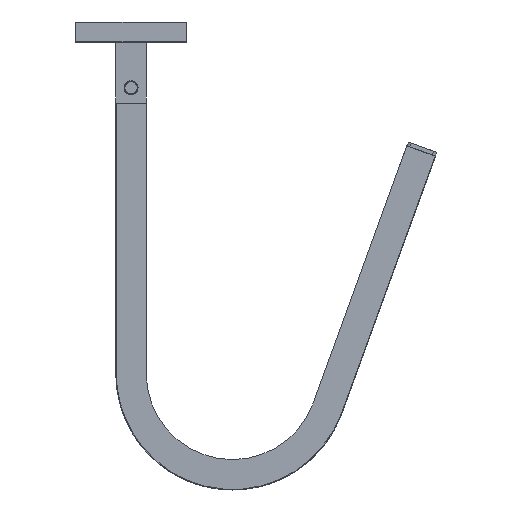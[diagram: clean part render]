
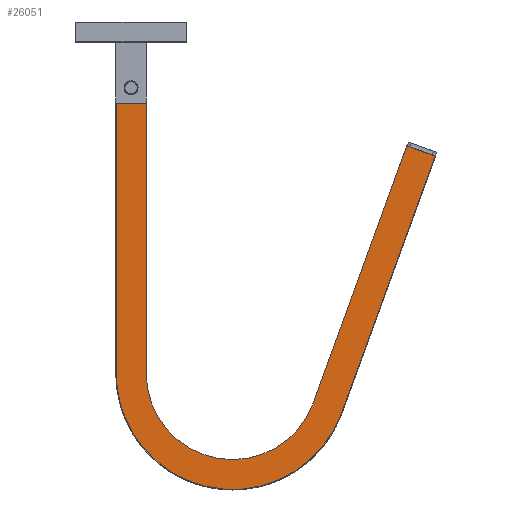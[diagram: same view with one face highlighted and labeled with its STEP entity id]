
A CAD part, left-side view. The second image highlights one B-rep face of the part: STEP entity #26051.
In plain terms, the highlighted planar face has unit normal (-1, 0, 0) as drawn and (0, 0, -1) by its records, which use the part's own axes.
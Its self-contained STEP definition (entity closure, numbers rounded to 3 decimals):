
#10 = CARTESIAN_POINT ( 'NONE',  ( 75.172, 231.627, -20. ) ) ;
#330 = CARTESIAN_POINT ( 'NONE',  ( 103.797, 152.981, -20. ) ) ;
#969 = AXIS2_PLACEMENT_3D ( 'NONE', #46181, #28398, #10346 ) ;
#1271 = VECTOR ( 'NONE', #42407, 1000. ) ;
#1395 = CARTESIAN_POINT ( 'NONE',  ( 103.797, 152.981, -20. ) ) ;
#2313 = CIRCLE ( 'NONE', #969, 42.5 ) ;
#2406 = VECTOR ( 'NONE', #27016, 1000. ) ;
#2613 = DIRECTION ( 'NONE',  ( -1., 0., 0. ) ) ;
#2993 = LINE ( 'NONE', #5829, #1271 ) ;
#3208 = EDGE_CURVE ( 'NONE', #8708, #4790, #2313, .T. ) ;
#3412 = ORIENTED_EDGE ( 'NONE', *, *, #3208, .T. ) ;
#4188 = CARTESIAN_POINT ( 'NONE',  ( -7.25, 133.4, -20. ) ) ;
#4431 = PLANE ( 'NONE',  #10192 ) ;
#4526 = ORIENTED_EDGE ( 'NONE', *, *, #10078, .T. ) ;
#4790 = VERTEX_POINT ( 'NONE', #41579 ) ;
#4927 = FACE_OUTER_BOUND ( 'NONE', #21360, .T. ) ;
#5180 = ORIENTED_EDGE ( 'NONE', *, *, #9491, .T. ) ;
#5329 = CARTESIAN_POINT ( 'NONE',  ( -7.25, 133.793, -20. ) ) ;
#5528 = ORIENTED_EDGE ( 'NONE', *, *, #8901, .T. ) ;
#5829 = CARTESIAN_POINT ( 'NONE',  ( 7.5, 0., -20. ) ) ;
#5951 = DIRECTION ( 'NONE',  ( 0.342, -0.94, 0. ) ) ;
#7281 = CARTESIAN_POINT ( 'NONE',  ( 136.11, 21.077, -20. ) ) ;
#8708 = VERTEX_POINT ( 'NONE', #19776 ) ;
#8901 = EDGE_CURVE ( 'NONE', #4790, #29056, #2993, .T. ) ;
#9119 = CARTESIAN_POINT ( 'NONE',  ( 103.797, 152.981, -20. ) ) ;
#9491 = EDGE_CURVE ( 'NONE', #29056, #39325, #30640, .T. ) ;
#10078 = EDGE_CURVE ( 'NONE', #28659, #46556, #21346, .T. ) ;
#10192 = AXIS2_PLACEMENT_3D ( 'NONE', #30213, #40843, #33209 ) ;
#10346 = DIRECTION ( 'NONE',  ( -1., 0., 0. ) ) ;
#10638 = ORIENTED_EDGE ( 'NONE', *, *, #16293, .T. ) ;
#10777 = CARTESIAN_POINT ( 'NONE',  ( -7.25, 217.094, -20. ) ) ;
#10886 = LINE ( 'NONE', #5329, #2406 ) ;
#12279 = VECTOR ( 'NONE', #29930, 1000. ) ;
#15808 = ORIENTED_EDGE ( 'NONE', *, *, #18015, .T. ) ;
#16293 = EDGE_CURVE ( 'NONE', #46556, #8708, #19089, .T. ) ;
#18015 = EDGE_CURVE ( 'NONE', #35999, #28659, #27409, .T. ) ;
#18804 = CARTESIAN_POINT ( 'NONE',  ( 149.97, 26.122, -20. ) ) ;
#19089 = LINE ( 'NONE', #7281, #12279 ) ;
#19776 = CARTESIAN_POINT ( 'NONE',  ( 89.937, 147.936, -20. ) ) ;
#21346 = LINE ( 'NONE', #39281, #41763 ) ;
#21360 = EDGE_LOOP ( 'NONE', ( #5180, #42620, #37370, #15808, #4526, #10638, #3412, #5528 ) ) ;
#21575 = CARTESIAN_POINT ( 'NONE',  ( -7.25, 133.4, -20. ) ) ;
#26051 = ADVANCED_FACE ( 'NONE', ( #4927 ), #4431, .T. ) ;
#27016 = DIRECTION ( 'NONE',  ( 0., -1., 0. ) ) ;
#27409 = LINE ( 'NONE', #9119, #33605 ) ;
#28398 = DIRECTION ( 'NONE',  ( 0., 0., 1. ) ) ;
#28659 = VERTEX_POINT ( 'NONE', #18804 ) ;
#29056 = VERTEX_POINT ( 'NONE', #29058 ) ;
#29058 = CARTESIAN_POINT ( 'NONE',  ( 7.5, 0., -20. ) ) ;
#29779 = EDGE_CURVE ( 'NONE', #35999, #39512, #30972, .T. ) ;
#29930 = DIRECTION ( 'NONE',  ( -0.342, 0.94, 0. ) ) ;
#30213 = CARTESIAN_POINT ( 'NONE',  ( 7.5, 0., -20. ) ) ;
#30640 = LINE ( 'NONE', #32023, #46015 ) ;
#30972 =( BOUNDED_CURVE ( )  B_SPLINE_CURVE ( 3, ( #330, #10, #10777, #21575 ),
 .UNSPECIFIED., .F., .F. ) 
 B_SPLINE_CURVE_WITH_KNOTS ( ( 4, 4 ),
 ( 0., 1. ),
 .UNSPECIFIED. ) 
 CURVE ( )  GEOMETRIC_REPRESENTATION_ITEM ( )  RATIONAL_B_SPLINE_CURVE ( ( 1., 0.449, 0.449, 1. ) ) 
 REPRESENTATION_ITEM ( '' )  );
#32023 = CARTESIAN_POINT ( 'NONE',  ( 0., 0., -20. ) ) ;
#32292 = EDGE_CURVE ( 'NONE', #39512, #39325, #10886, .T. ) ;
#33209 = DIRECTION ( 'NONE',  ( -1., 0., 0. ) ) ;
#33605 = VECTOR ( 'NONE', #5951, 1000. ) ;
#35999 = VERTEX_POINT ( 'NONE', #1395 ) ;
#37370 = ORIENTED_EDGE ( 'NONE', *, *, #29779, .F. ) ;
#38677 = CARTESIAN_POINT ( 'NONE',  ( 136.11, 21.077, -20. ) ) ;
#39281 = CARTESIAN_POINT ( 'NONE',  ( 149.97, 26.122, -20. ) ) ;
#39325 = VERTEX_POINT ( 'NONE', #41890 ) ;
#39512 = VERTEX_POINT ( 'NONE', #4188 ) ;
#40843 = DIRECTION ( 'NONE',  ( 0., 0., -1. ) ) ;
#41579 = CARTESIAN_POINT ( 'NONE',  ( 7.5, 133.4, -20. ) ) ;
#41763 = VECTOR ( 'NONE', #42787, 1000. ) ;
#41890 = CARTESIAN_POINT ( 'NONE',  ( -7.25, 0., -20. ) ) ;
#42407 = DIRECTION ( 'NONE',  ( 0., -1., 0. ) ) ;
#42620 = ORIENTED_EDGE ( 'NONE', *, *, #32292, .F. ) ;
#42787 = DIRECTION ( 'NONE',  ( -0.94, -0.342, 0. ) ) ;
#46015 = VECTOR ( 'NONE', #2613, 1000. ) ;
#46181 = CARTESIAN_POINT ( 'NONE',  ( 50., 133.4, -20. ) ) ;
#46556 = VERTEX_POINT ( 'NONE', #38677 ) ;
